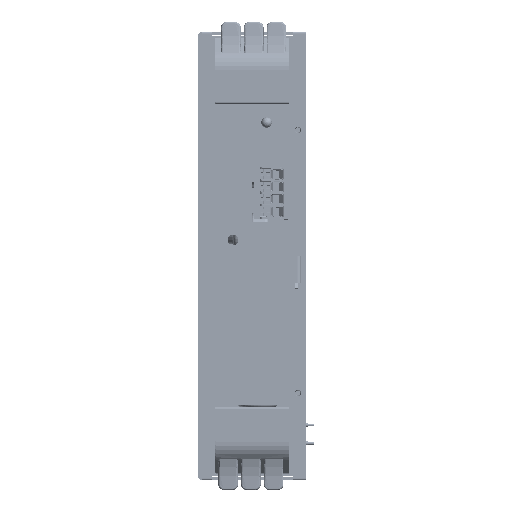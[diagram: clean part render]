
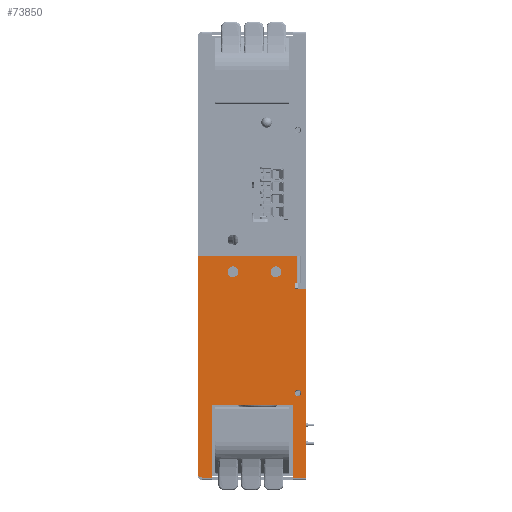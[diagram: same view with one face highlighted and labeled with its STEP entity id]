
A CAD part, left-side view. The second image highlights one B-rep face of the part: STEP entity #73850.
In plain terms, the highlighted planar face has unit normal (-1, 0, 0).
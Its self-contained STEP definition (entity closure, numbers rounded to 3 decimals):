
#51060=CARTESIAN_POINT('',(-27.647,60.886,0.));
#51070=DIRECTION('',(0.,0.,-1.));
#51080=VECTOR('',#51070,1.);
#51090=LINE('',#51060,#51080);
#53540=CARTESIAN_POINT('',(-27.647,34.886,
5.2));
#53550=VERTEX_POINT('',#53540);
#53720=CARTESIAN_POINT('',(-27.647,34.886,
3.5));
#53730=VERTEX_POINT('',#53720);
#53760=CARTESIAN_POINT('',(-27.647,34.886,0.));
#53770=DIRECTION('',(0.,0.,1.));
#53780=VECTOR('',#53770,1.);
#53790=LINE('',#53760,#53780);
#53800=EDGE_CURVE('',#53730,#53550,#53790,.T.);
#57520=CARTESIAN_POINT('',(-27.647,58.038,
-28.822));
#57530=VERTEX_POINT('',#57520);
#58040=CARTESIAN_POINT('',(-27.647,58.038,
-49.4));
#58050=VERTEX_POINT('',#58040);
#58080=CARTESIAN_POINT('',(-27.647,58.038,0.));
#58090=DIRECTION('',(0.,0.,1.));
#58100=VECTOR('',#58090,1.);
#58110=LINE('',#58080,#58100);
#58120=EDGE_CURVE('',#58050,#57530,#58110,.T.);
#65810=CARTESIAN_POINT('',(-27.647,31.686,
3.5));
#65820=VERTEX_POINT('',#65810);
#66220=CARTESIAN_POINT('',(-27.647,31.686,
-49.4));
#66230=VERTEX_POINT('',#66220);
#66260=CARTESIAN_POINT('',(-27.647,31.686,0.));
#66270=DIRECTION('',(0.,0.,-1.));
#66280=VECTOR('',#66270,1.);
#66290=LINE('',#66260,#66280);
#66300=EDGE_CURVE('',#65820,#66230,#66290,.T.);
#66660=CARTESIAN_POINT('',(-27.647,31.986,92.23)
);
#66670=DIRECTION('',(-1.,0.,0.));
#66680=DIRECTION('',(0.,0.,1.));
#66690=AXIS2_PLACEMENT_3D('',#66660,#66670,#66680);
#66700=PLANE('',#66690);
#68570=CARTESIAN_POINT('',(-27.647,61.886,
-48.4));
#68580=DIRECTION('',(0.,0.,1.));
#68590=VECTOR('',#68580,1.);
#68600=LINE('',#68570,#68590);
#72560=CARTESIAN_POINT('',(-27.647,52.186,
8.28));
#72570=DIRECTION('',(1.,0.,0.));
#72580=DIRECTION('',(0.,0.,1.));
#72590=AXIS2_PLACEMENT_3D('',#72560,#72570,#72580);
#72600=CIRCLE('',#72590,1.5);
#72610=CARTESIAN_POINT('',(-27.647,52.186,
9.78));
#72620=VERTEX_POINT('',#72610);
#72630=CARTESIAN_POINT('',(-27.647,52.186,
6.78));
#72640=VERTEX_POINT('',#72630);
#72650=EDGE_CURVE('',#72620,#72640,#72600,.T.);
#72660=ORIENTED_EDGE('',*,*,#72650,.T.);
#72670=EDGE_CURVE('',#72640,#72620,#72600,.T.);
#72680=ORIENTED_EDGE('',*,*,#72670,.T.);
#72690=EDGE_LOOP('',(#72680,#72660));
#72700=FACE_BOUND('',#72690,.T.);
#72710=CARTESIAN_POINT('',(-27.647,40.186,
8.28));
#72720=DIRECTION('',(1.,0.,0.));
#72730=DIRECTION('',(0.,0.,1.));
#72740=AXIS2_PLACEMENT_3D('',#72710,#72720,#72730);
#72750=CIRCLE('',#72740,1.5);
#72760=CARTESIAN_POINT('',(-27.647,40.186,
9.78));
#72770=VERTEX_POINT('',#72760);
#72780=CARTESIAN_POINT('',(-27.647,40.186,
6.78));
#72790=VERTEX_POINT('',#72780);
#72800=EDGE_CURVE('',#72770,#72790,#72750,.T.);
#72810=ORIENTED_EDGE('',*,*,#72800,.T.);
#72820=EDGE_CURVE('',#72790,#72770,#72750,.T.);
#72830=ORIENTED_EDGE('',*,*,#72820,.T.);
#72840=EDGE_LOOP('',(#72830,#72810));
#72850=FACE_BOUND('',#72840,.T.);
#72860=CARTESIAN_POINT('',(-27.647,34.086,-25.574
));
#72870=DIRECTION('',(1.,0.,0.));
#72880=DIRECTION('',(0.,0.,-1.));
#72890=AXIS2_PLACEMENT_3D('',#72860,#72870,#72880);
#72900=CIRCLE('',#72890,0.902);
#72910=CARTESIAN_POINT('',(-27.647,34.086,-24.672
));
#72920=VERTEX_POINT('',#72910);
#72930=CARTESIAN_POINT('',(-27.647,34.086,-26.475
));
#72940=VERTEX_POINT('',#72930);
#72950=EDGE_CURVE('',#72920,#72940,#72900,.T.);
#72960=ORIENTED_EDGE('',*,*,#72950,.T.);
#72970=EDGE_CURVE('',#72940,#72920,#72900,.T.);
#72980=ORIENTED_EDGE('',*,*,#72970,.T.);
#72990=EDGE_LOOP('',(#72980,#72960));
#73000=FACE_BOUND('',#72990,.T.);
#73010=CARTESIAN_POINT('',(-27.647,8.,12.6));
#73020=DIRECTION('',(0.,1.,0.));
#73030=VECTOR('',#73020,1.);
#73040=LINE('',#73010,#73030);
#73050=CARTESIAN_POINT('',(-27.647,34.186,
12.6));
#73060=VERTEX_POINT('',#73050);
#73070=CARTESIAN_POINT('',(-27.647,61.886,
12.6));
#73080=VERTEX_POINT('',#73070);
#73090=EDGE_CURVE('',#73060,#73080,#73040,.T.);
#73100=ORIENTED_EDGE('',*,*,#73090,.T.);
#73110=CARTESIAN_POINT('',(-27.647,34.186,0.));
#73120=DIRECTION('',(0.,0.,1.));
#73130=VECTOR('',#73120,1.);
#73140=LINE('',#73110,#73130);
#73150=CARTESIAN_POINT('',(-27.647,34.186,
5.2));
#73160=VERTEX_POINT('',#73150);
#73170=EDGE_CURVE('',#73160,#73060,#73140,.T.);
#73180=ORIENTED_EDGE('',*,*,#73170,.T.);
#73190=CARTESIAN_POINT('',(-27.647,0.,5.2));
#73200=DIRECTION('',(0.,-1.,0.));
#73210=VECTOR('',#73200,1.);
#73220=LINE('',#73190,#73210);
#73230=EDGE_CURVE('',#53550,#73160,#73220,.T.);
#73240=ORIENTED_EDGE('',*,*,#73230,.T.);
#73250=ORIENTED_EDGE('',*,*,#53800,.T.);
#73260=CARTESIAN_POINT('',(-27.647,0.,3.5));
#73270=DIRECTION('',(0.,1.,0.));
#73280=VECTOR('',#73270,1.);
#73290=LINE('',#73260,#73280);
#73300=EDGE_CURVE('',#65820,#53730,#73290,.T.);
#73310=ORIENTED_EDGE('',*,*,#73300,.T.);
#73320=ORIENTED_EDGE('',*,*,#66300,.F.);
#73330=CARTESIAN_POINT('',(-27.647,0.,-49.4));
#73340=DIRECTION('',(0.,1.,0.));
#73350=VECTOR('',#73340,1.);
#73360=LINE('',#73330,#73350);
#73370=CARTESIAN_POINT('',(-27.647,35.488,
-49.4));
#73380=VERTEX_POINT('',#73370);
#73390=EDGE_CURVE('',#66230,#73380,#73360,.T.);
#73400=ORIENTED_EDGE('',*,*,#73390,.F.);
#73410=CARTESIAN_POINT('',(-27.647,35.488,0.));
#73420=DIRECTION('',(0.,0.,-1.));
#73430=VECTOR('',#73420,1.);
#73440=LINE('',#73410,#73430);
#73450=CARTESIAN_POINT('',(-27.647,35.488,
-28.822));
#73460=VERTEX_POINT('',#73450);
#73470=EDGE_CURVE('',#73460,#73380,#73440,.T.);
#73480=ORIENTED_EDGE('',*,*,#73470,.T.);
#73490=CARTESIAN_POINT('',(-27.647,0.,-28.822));
#73500=DIRECTION('',(0.,-1.,0.));
#73510=VECTOR('',#73500,1.);
#73520=LINE('',#73490,#73510);
#73530=EDGE_CURVE('',#57530,#73460,#73520,.T.);
#73540=ORIENTED_EDGE('',*,*,#73530,.T.);
#73550=ORIENTED_EDGE('',*,*,#58120,.T.);
#73560=CARTESIAN_POINT('',(-27.647,60.886,
-49.4));
#73570=VERTEX_POINT('',#73560);
#73580=EDGE_CURVE('',#58050,#73570,#73360,.T.);
#73590=ORIENTED_EDGE('',*,*,#73580,.F.);
#73600=CARTESIAN_POINT('',(-27.647,60.886,-48.9)
);
#73610=VERTEX_POINT('',#73600);
#73620=EDGE_CURVE('',#73610,#73570,#51090,.T.);
#73630=ORIENTED_EDGE('',*,*,#73620,.T.);
#73640=CARTESIAN_POINT('',(-27.647,60.886,-48.9)
);
#73650=DIRECTION('',(0.,1.,0.));
#73660=VECTOR('',#73650,1.);
#73670=LINE('',#73640,#73660);
#73680=CARTESIAN_POINT('',(-27.647,61.386,
-48.9));
#73690=VERTEX_POINT('',#73680);
#73700=EDGE_CURVE('',#73610,#73690,#73670,.T.);
#73710=ORIENTED_EDGE('',*,*,#73700,.F.);
#73720=CARTESIAN_POINT('',(-27.647,61.386,
-48.4));
#73730=DIRECTION('',(1.,0.,0.));
#73740=DIRECTION('',(0.,-1.,0.));
#73750=AXIS2_PLACEMENT_3D('',#73720,#73730,#73740);
#73760=CIRCLE('',#73750,0.5);
#73770=CARTESIAN_POINT('',(-27.647,61.886,
-48.4));
#73780=VERTEX_POINT('',#73770);
#73790=EDGE_CURVE('',#73690,#73780,#73760,.T.);
#73800=ORIENTED_EDGE('',*,*,#73790,.F.);
#73810=EDGE_CURVE('',#73780,#73080,#68600,.T.);
#73820=ORIENTED_EDGE('',*,*,#73810,.F.);
#73830=EDGE_LOOP('',(#73820,#73800,#73710,#73630,#73590,#73550,#73540,
#73480,#73400,#73320,#73310,#73250,#73240,#73180,#73100));
#73840=FACE_OUTER_BOUND('',#73830,.T.);
#73850=ADVANCED_FACE('',(#72700,#72850,#73000,#73840),#66700,.T.);
